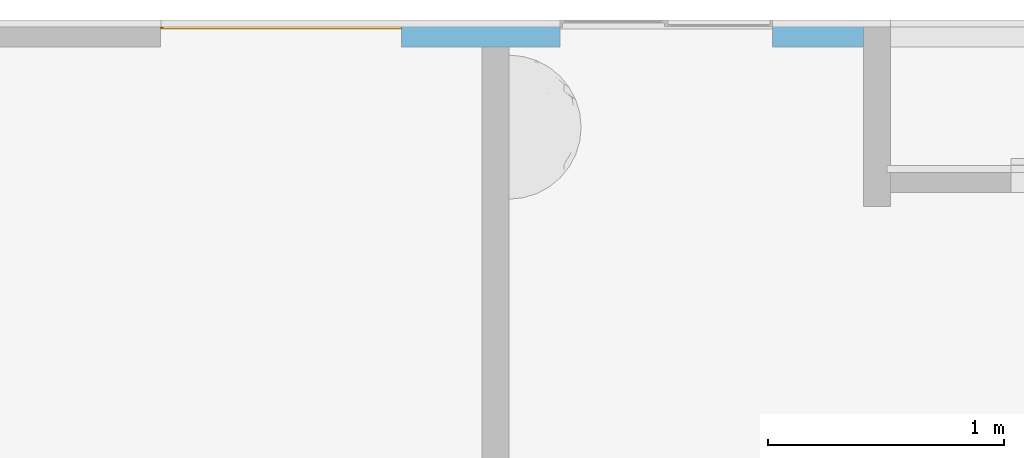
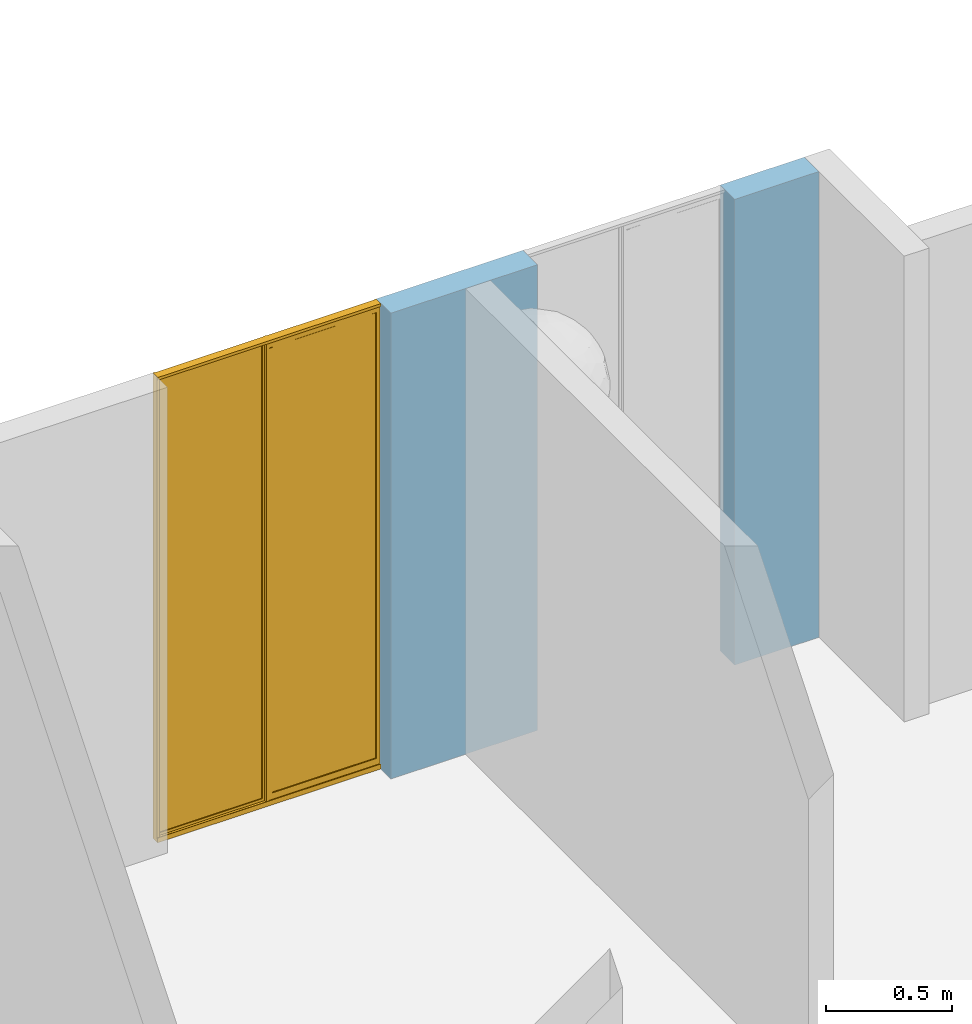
# One storey, part 19 of 51: 1 window, 2 openings, plus 1 element that does not belong to this part.
"""IFC4 building model written with IfcOpenShell, lengths in metres."""

import ifcopenshell
import ifcopenshell.guid

model = None  # the IFC model being written
_history = None  # IfcOwnerHistory: only IFC2X3 demands one
_inside = {}  # id of a spatial element -> (the spatial element, [elements in it])
_under = {}  # id of a project, library or spatial element -> (it, [spatial elements below it])
_declared = {}  # id of a project -> (the project, [libraries it declares])
_typed = {}  # id of a type object -> (the type object, [elements of that type])
_made_of = {}  # id of a material, layer set ... -> (it, [elements and type objects made of it])


def new_model(schema):
    """Start an empty IFC model of exactly this schema.

    Asked for "IFC4X3", IfcOpenShell would pick the latest addendum, in which some entities
    have other attributes; the version numbers below select the first issue.
    IFC2X3 requires an IfcOwnerHistory on every rooted entity: one is made here for all.
    """
    global model, _history
    if schema == "IFC4X3":
        model = ifcopenshell.file(schema_version=(4, 3, 0, 0))
    else:
        model = ifcopenshell.file(schema=schema)
    _inside.clear()
    _under.clear()
    _declared.clear()
    _typed.clear()
    _made_of.clear()
    _history = None
    if model.schema == "IFC2X3":
        org = make("IfcOrganization", Name="unknown")
        user = make(
            "IfcPersonAndOrganization",
            ThePerson=make("IfcPerson", FamilyName="unknown"),
            TheOrganization=org,
        )
        app = make(
            "IfcApplication",
            ApplicationDeveloper=org,
            Version="unknown",
            ApplicationFullName="unknown",
            ApplicationIdentifier="unknown",
        )
        _history = make(
            "IfcOwnerHistory",
            OwningUser=user,
            OwningApplication=app,
            ChangeAction="ADDED",
            CreationDate=0,
        )
    return model


def make(cls, **values):
    """One entity of the class cls with the attributes given. An attribute that is None is left unset."""
    return model.create_entity(
        cls, **{name: value for name, value in values.items() if value is not None}
    )


def entity(cls, *values):
    """Any entity or typed value of the class cls, its attributes in the order of the schema. None: left unset."""
    e = model.create_entity(cls)
    for i, value in enumerate(values):
        if value is not None:
            e[i] = value
    return e


def rooted(cls, **values):
    """An entity with a GlobalId (a new one), such as an element, a storey or a relation."""
    return make(cls, GlobalId=ifcopenshell.guid.new(), OwnerHistory=_history, **values)


def si_unit(unit_type, name, prefix=None):
    """IfcSIUnit, for example si_unit("LENGTHUNIT", "METRE", prefix="MILLI")."""
    return make("IfcSIUnit", UnitType=unit_type, Prefix=prefix, Name=name)


def converted_unit(unit_type, name, factor, base, dimensions=None, offset=None):
    """IfcConversionBasedUnit, such as the inch: factor (a typed value) times the base unit."""
    return make(
        "IfcConversionBasedUnit"
        if offset is None
        else "IfcConversionBasedUnitWithOffset",
        ConversionOffset=offset,
        Dimensions=None
        if dimensions is None
        else entity("IfcDimensionalExponents", *dimensions),
        UnitType=unit_type,
        Name=name,
        ConversionFactor=make(
            "IfcMeasureWithUnit", ValueComponent=factor, UnitComponent=base
        ),
    )


def derived_unit(unit_type, elements):
    """IfcDerivedUnit: a product of units, each with its exponent."""
    return make(
        "IfcDerivedUnit",
        Elements=[
            make("IfcDerivedUnitElement", Unit=unit, Exponent=power)
            for unit, power in elements
        ],
        UnitType=unit_type,
    )


def assignment(units):
    """IfcUnitAssignment: the units of a project."""
    return None if units is None else make("IfcUnitAssignment", Units=units)


def point(xyz):
    """IfcCartesianPoint."""
    return None if xyz is None else make("IfcCartesianPoint", Coordinates=xyz)


def direction(xyz):
    """IfcDirection."""
    return None if xyz is None else make("IfcDirection", DirectionRatios=xyz)


def frame(location, z_axis=None, x_axis=None):
    """IfcAxis2Placement3D, a coordinate frame: its origin and axes. An axis left out is left unset."""
    return make(
        "IfcAxis2Placement3D",
        Location=point(location),
        Axis=direction(z_axis),
        RefDirection=direction(x_axis),
    )


def origin():
    """The frame at (0, 0, 0) with its axes left unset."""
    return frame((0.0, 0.0, 0.0))


def place(relative_to, where):
    """IfcLocalPlacement: puts the frame where relative to a parent placement (None: the world)."""
    return make(
        "IfcLocalPlacement", PlacementRelTo=relative_to, RelativePlacement=where
    )


def context(
    kind, dimensions, precision=None, world=None, true_north=None, identifier=None
):
    """IfcGeometricRepresentationContext, for example the 3D "Model" context."""
    return make(
        "IfcGeometricRepresentationContext",
        ContextIdentifier=identifier,
        ContextType=kind,
        CoordinateSpaceDimension=dimensions,
        Precision=precision,
        WorldCoordinateSystem=world,
        TrueNorth=true_north,
    )


def subcontext(parent, identifier, kind, view, scale=None):
    """IfcGeometricRepresentationSubContext, for example "Body" below "Model"."""
    return make(
        "IfcGeometricRepresentationSubContext",
        ContextIdentifier=identifier,
        ContextType=kind,
        ParentContext=parent,
        TargetScale=scale,
        TargetView=view,
    )


def project(units=None, contexts=None):
    """IfcProject with its units and contexts."""
    return rooted(
        "IfcProject",
        Name="project",
        RepresentationContexts=contexts,
        UnitsInContext=assignment(units),
    )


def spatial(cls, under=None, at=None, **own):
    """A site, building, storey or space (cls), placed at a placement, below another one or the project."""
    s = rooted(cls, ObjectPlacement=at, **own)
    if under is not None:
        _under.setdefault(under.id(), (under, []))[1].append(s)
    return s


def point_list(points):
    """IfcCartesianPointList2D or 3D."""
    cls = (
        "IfcCartesianPointList2D" if len(points[0]) == 2 else "IfcCartesianPointList3D"
    )
    return make(cls, CoordList=points)


def indexed_curve(points, segments=None, self_intersect=None):
    """IfcIndexedPolyCurve: lines and arcs through numbered points (the first is 1)."""
    return make(
        "IfcIndexedPolyCurve",
        Points=point_list(points),
        Segments=segments,
        SelfIntersect=self_intersect,
    )


def outline(outer, holes=None, kind="AREA"):
    """IfcArbitraryClosedProfileDef: a profile drawn as a closed curve; with holes, ...WithVoids."""
    if holes is None:
        return make("IfcArbitraryClosedProfileDef", ProfileType=kind, OuterCurve=outer)
    return make(
        "IfcArbitraryProfileDefWithVoids",
        ProfileType=kind,
        OuterCurve=outer,
        InnerCurves=holes,
    )


def extrude(swept, where, along, depth):
    """IfcExtrudedAreaSolid: the profile swept, set in the frame where, extruded along a direction by depth."""
    return make(
        "IfcExtrudedAreaSolid",
        SweptArea=swept,
        Position=where,
        ExtrudedDirection=direction(along),
        Depth=depth,
    )


def polygons(points, faces, closed=None, point_numbers=None):
    """IfcPolygonalFaceSet: a face is its outer loop, then its inner loops; points numbered from 1."""
    made = []
    for loops in faces:
        if len(loops) == 1:
            made.append(make("IfcIndexedPolygonalFace", CoordIndex=loops[0]))
        else:
            made.append(
                make(
                    "IfcIndexedPolygonalFaceWithVoids",
                    CoordIndex=loops[0],
                    InnerCoordIndices=loops[1:],
                )
            )
    return make(
        "IfcPolygonalFaceSet",
        Coordinates=point_list(points),
        Closed=closed,
        Faces=made,
        PnIndex=point_numbers,
    )


def shape(context_of_items, identifier, shape_type, items):
    """IfcShapeRepresentation: the items that make up one representation, for example the "Body"."""
    return make(
        "IfcShapeRepresentation",
        ContextOfItems=context_of_items,
        RepresentationIdentifier=identifier,
        RepresentationType=shape_type,
        Items=items,
    )


def source(mapping_origin, context_of_items, identifier, shape_type, items):
    """IfcRepresentationMap: a shape defined once, which mapped items show again and again."""
    return make(
        "IfcRepresentationMap",
        MappingOrigin=mapping_origin,
        MappedRepresentation=shape(context_of_items, identifier, shape_type, items),
    )


def transform(
    local_origin,
    x_axis=None,
    y_axis=None,
    z_axis=None,
    scale=None,
    scale2=None,
    scale3=None,
    uniform=True,
):
    """IfcCartesianTransformationOperator3D, or its non-uniform kind. x_axis, y_axis, z_axis: its Axis1, 2, 3."""
    if uniform:
        return make(
            "IfcCartesianTransformationOperator3D",
            Axis1=direction(x_axis),
            Axis2=direction(y_axis),
            LocalOrigin=point(local_origin),
            Scale=scale,
            Axis3=direction(z_axis),
        )
    return make(
        "IfcCartesianTransformationOperator3DnonUniform",
        Axis1=direction(x_axis),
        Axis2=direction(y_axis),
        LocalOrigin=point(local_origin),
        Scale=scale,
        Axis3=direction(z_axis),
        Scale2=scale2,
        Scale3=scale3,
    )


def mapped(mapping_source, mapping_target):
    """IfcMappedItem: shows the shape of a source again, moved by a transform."""
    return make(
        "IfcMappedItem", MappingSource=mapping_source, MappingTarget=mapping_target
    )


def material(Name=None, Category=None):
    """IfcMaterial."""
    return make("IfcMaterial", Name=Name, Category=Category)


def constituent(of_material, Name=None, Category=None, fraction=None):
    """IfcMaterialConstituent: one of the materials an element consists of."""
    return make(
        "IfcMaterialConstituent",
        Name=Name,
        Material=of_material,
        Fraction=fraction,
        Category=Category,
    )


def constituent_set(constituents=None, Name=None):
    """IfcMaterialConstituentSet."""
    return make(
        "IfcMaterialConstituentSet", Name=Name, MaterialConstituents=constituents
    )


def made_of(thing, what):
    """Note that an element or type object is made of a material, layer set ...; save() writes the relation."""
    if what is not None:
        _made_of.setdefault(what.id(), (what, []))[1].append(thing)
    return thing


def type_object(cls, material=None, **own):
    """A type object (cls), such as IfcWallType, which elements share."""
    return made_of(rooted(cls, **own), material)


def type_shapes(of_type, sources):
    """Give a type object the sources (RepresentationMaps) that its elements show as mapped items."""
    of_type.RepresentationMaps = sources


def element(
    cls,
    number,
    at=None,
    inside=None,
    cuts=None,
    type_object=None,
    material=None,
    context=None,
    identifier="Body",
    shape_type=None,
    held_by="IfcProductDefinitionShape",
    body=None,
    shapes=None,
    **own,
):
    """One element of the class cls, such as IfcWall. Its Tag is "e" and its number.

    at: its placement. inside: the storey or other place that contains it. cuts: it is an
    opening in that element (IfcRelVoidsElement). A single representation is given by context,
    identifier, shape_type and body (its items); several are given by shapes. held_by: the class
    of the entity that holds the representations. save() writes the other relations.
    """
    e = rooted(cls, Tag="e%d" % number, ObjectPlacement=at, **own)
    if body is not None:
        shapes = [shape(context, identifier, shape_type, body)]
    if shapes is not None:
        e.Representation = make(held_by, Representations=shapes)
    if inside is not None:
        _inside.setdefault(inside.id(), (inside, []))[1].append(e)
    if cuts is not None:
        rooted(
            "IfcRelVoidsElement", RelatingBuildingElement=cuts, RelatedOpeningElement=e
        )
    if type_object is not None:
        _typed.setdefault(type_object.id(), (type_object, []))[1].append(e)
    return made_of(e, material)


def fill(opening, filler):
    """IfcRelFillsElement: the door or window that sits in an opening."""
    return rooted(
        "IfcRelFillsElement",
        RelatingOpeningElement=opening,
        RelatedBuildingElement=filler,
    )


def aggregate(whole, parts):
    """IfcRelAggregates: a whole, such as a stair, and the parts it consists of."""
    return rooted("IfcRelAggregates", RelatingObject=whole, RelatedObjects=parts)


def save(model, path):
    """Write the relations noted so far, then the file.

    IfcRelAggregates (storeys below a building ...), IfcRelContainedInSpatialStructure (elements
    in a storey), IfcRelDefinesByType, IfcRelAssociatesMaterial and IfcRelDeclares: one each for
    every whole, place, type object, material and project.
    """
    for whole, parts in _under.values():
        aggregate(whole, parts)
    for where, things in _inside.values():
        rooted(
            "IfcRelContainedInSpatialStructure",
            RelatedElements=things,
            RelatingStructure=where,
        )
    for kind, things in _typed.values():
        rooted("IfcRelDefinesByType", RelatedObjects=things, RelatingType=kind)
    for what, things in _made_of.values():
        rooted("IfcRelAssociatesMaterial", RelatedObjects=things, RelatingMaterial=what)
    for by, libraries in _declared.values():
        rooted("IfcRelDeclares", RelatingContext=by, RelatedDefinitions=libraries)
    model.write(path)


model = new_model("IFC4")

# Units and contexts
model_context = context("Model", 3, precision=1e-05, world=origin(), true_north=direction((6.123031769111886e-17, 1.0)))
body_context = subcontext(model_context, "Body", "Model", "MODEL_VIEW")
ifc_project = project(units=[si_unit("LENGTHUNIT", "METRE"), si_unit("AREAUNIT", "SQUARE_METRE"), si_unit("VOLUMEUNIT", "CUBIC_METRE"), converted_unit("PLANEANGLEUNIT", "DEGREE", entity("IfcRatioMeasure", 0.017453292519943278), si_unit("PLANEANGLEUNIT", "RADIAN"), dimensions=[0, 0, 0, 0, 0, 0, 0]), si_unit("MASSUNIT", "GRAM", prefix="KILO"), derived_unit("MASSDENSITYUNIT", [(si_unit("MASSUNIT", "GRAM", prefix="KILO"), 1), (si_unit("LENGTHUNIT", "METRE"), -3)]), derived_unit("IONCONCENTRATIONUNIT", [(si_unit("MASSUNIT", "GRAM", prefix="KILO"), 1), (si_unit("LENGTHUNIT", "METRE"), -3)]), derived_unit("MOMENTOFINERTIAUNIT", [(si_unit("LENGTHUNIT", "METRE"), 4)]), si_unit("TIMEUNIT", "SECOND"), si_unit("FREQUENCYUNIT", "HERTZ"), si_unit("THERMODYNAMICTEMPERATUREUNIT", "DEGREE_CELSIUS"), derived_unit("THERMALTRANSMITTANCEUNIT", [(si_unit("MASSUNIT", "GRAM", prefix="KILO"), 1), (si_unit("THERMODYNAMICTEMPERATUREUNIT", "KELVIN"), -1), (si_unit("TIMEUNIT", "SECOND"), -3)]), derived_unit("THERMALCONDUCTANCEUNIT", [(si_unit("MASSUNIT", "GRAM", prefix="KILO"), 1), (si_unit("THERMODYNAMICTEMPERATUREUNIT", "KELVIN"), -1), (si_unit("TIMEUNIT", "SECOND"), -3), (si_unit("LENGTHUNIT", "METRE"), 1)]), derived_unit("VOLUMETRICFLOWRATEUNIT", [(si_unit("LENGTHUNIT", "METRE"), 3), (si_unit("TIMEUNIT", "SECOND"), -1)]), derived_unit("MASSFLOWRATEUNIT", [(si_unit("MASSUNIT", "GRAM", prefix="KILO"), 1), (si_unit("TIMEUNIT", "SECOND"), -1)]), derived_unit("ROTATIONALFREQUENCYUNIT", [(si_unit("TIMEUNIT", "SECOND"), -1)]), si_unit("ELECTRICCURRENTUNIT", "AMPERE"), si_unit("ELECTRICVOLTAGEUNIT", "VOLT"), si_unit("POWERUNIT", "WATT"), si_unit("FORCEUNIT", "NEWTON", prefix="KILO"), si_unit("ILLUMINANCEUNIT", "LUX"), si_unit("LUMINOUSFLUXUNIT", "LUMEN"), si_unit("LUMINOUSINTENSITYUNIT", "CANDELA"), derived_unit("USERDEFINED", [(si_unit("MASSUNIT", "GRAM", prefix="KILO"), -1), (si_unit("LENGTHUNIT", "METRE"), -2), (si_unit("TIMEUNIT", "SECOND"), 3), (si_unit("LUMINOUSFLUXUNIT", "LUMEN"), 1)]), derived_unit("USERDEFINED", [(si_unit("MASSUNIT", "GRAM", prefix="KILO"), 1), (si_unit("TIMEUNIT", "SECOND"), -3), (si_unit("LENGTHUNIT", "METRE"), 3), (si_unit("ELECTRICCURRENTUNIT", "AMPERE"), -2)]), derived_unit("SOUNDPOWERUNIT", [(si_unit("MASSUNIT", "GRAM", prefix="KILO"), 1), (si_unit("TIMEUNIT", "SECOND"), -3), (si_unit("LENGTHUNIT", "METRE"), 2)]), derived_unit("SOUNDPRESSUREUNIT", [(si_unit("MASSUNIT", "GRAM", prefix="KILO"), 1), (si_unit("LENGTHUNIT", "METRE"), -1), (si_unit("TIMEUNIT", "SECOND"), -2)]), derived_unit("LINEARVELOCITYUNIT", [(si_unit("LENGTHUNIT", "METRE"), 1), (si_unit("TIMEUNIT", "SECOND"), -1)]), si_unit("PRESSUREUNIT", "PASCAL"), derived_unit("USERDEFINED", [(si_unit("MASSUNIT", "GRAM", prefix="KILO"), 1), (si_unit("LENGTHUNIT", "METRE"), -2), (si_unit("TIMEUNIT", "SECOND"), -2)]), derived_unit("LINEARFORCEUNIT", [(si_unit("MASSUNIT", "GRAM", prefix="KILO"), 1), (si_unit("TIMEUNIT", "SECOND"), -2)]), derived_unit("PLANARFORCEUNIT", [(si_unit("MASSUNIT", "GRAM", prefix="KILO"), 1), (si_unit("LENGTHUNIT", "METRE"), -1), (si_unit("TIMEUNIT", "SECOND"), -2)]), derived_unit("SPECIFICHEATCAPACITYUNIT", [(si_unit("THERMODYNAMICTEMPERATUREUNIT", "KELVIN"), -1), (si_unit("LENGTHUNIT", "METRE"), 2), (si_unit("TIMEUNIT", "SECOND"), -2)]), derived_unit("HEATINGVALUEUNIT", [(si_unit("LENGTHUNIT", "METRE"), 2), (si_unit("TIMEUNIT", "SECOND"), -2)]), derived_unit("VAPORPERMEABILITYUNIT", [(si_unit("LENGTHUNIT", "METRE"), -1), (si_unit("TIMEUNIT", "SECOND"), 1)]), derived_unit("DYNAMICVISCOSITYUNIT", [(si_unit("MASSUNIT", "GRAM", prefix="KILO"), 1), (si_unit("TIMEUNIT", "SECOND"), -1), (si_unit("LENGTHUNIT", "METRE"), -1)]), derived_unit("THERMALEXPANSIONCOEFFICIENTUNIT", [(si_unit("THERMODYNAMICTEMPERATUREUNIT", "KELVIN"), -1)]), derived_unit("MODULUSOFELASTICITYUNIT", [(si_unit("MASSUNIT", "GRAM", prefix="KILO"), 1), (si_unit("LENGTHUNIT", "METRE"), -1), (si_unit("TIMEUNIT", "SECOND"), -2)]), derived_unit("ISOTHERMALMOISTURECAPACITYUNIT", [(si_unit("LENGTHUNIT", "METRE"), 3), (si_unit("MASSUNIT", "GRAM", prefix="KILO"), -1)]), derived_unit("MOISTUREDIFFUSIVITYUNIT", [(si_unit("TIMEUNIT", "SECOND"), -1), (si_unit("LENGTHUNIT", "METRE"), 2)])], contexts=[model_context])

# Site, building, storey
site_placement = place(None, origin())
site = spatial("IfcSite", under=ifc_project, at=site_placement, Name="Default", CompositionType="ELEMENT")
building_placement = place(site_placement, origin())
building = spatial("IfcBuilding", under=site, at=building_placement, CompositionType="ELEMENT")
storey_placement = place(building_placement, frame((0.0, 0.0, 2.350000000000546)))
storey = spatial("IfcBuildingStorey", under=building, at=storey_placement, Name="Nivel 2", CompositionType="ELEMENT", Elevation=2.350000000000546)

# Wall, openings, window
ifc_material_1 = material(Name="Ladrillo claro (Aire)", Category="Materials")
wall_type = type_object("IfcWallType", Name="Basic Wall:B2010 - 0.115m - Muro exterior en mampostería - Ladrillo", PredefinedType="STANDARD")
wall_placement = place(storey_placement, frame((6.067499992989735, -0.037500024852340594, 0.0), z_axis=(0.0, 0.0, 1.0), x_axis=(-1.0, 0.0, 0.0)))
wall = element("IfcWall", 1, at=wall_placement, inside=storey, type_object=wall_type, material=ifc_material_1, Name="Basic Wall:B2010 - 0.115m - Muro exterior en mampostería - Ladrillo", ObjectType="Basic Wall:B2010 - 0.115m - Muro exterior en mampostería - Ladrillo", PredefinedType="NOTDEFINED", context=body_context, shape_type="Tessellation", body=[
    polygons([(0.3850000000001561, -0.05750000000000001, 2.250000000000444), (1.7657632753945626e-17, -0.05750000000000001, 2.250000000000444), (1.1005247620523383e-15, -0.05750000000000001, -5.414335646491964e-16), (0.3850000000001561, -0.05750000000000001, -5.414335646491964e-16), (2.0818603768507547e-15, 0.05749999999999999, -5.414335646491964e-16), (0.38500000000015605, 0.05749999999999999, -5.414335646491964e-16), (0.38500000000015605, 0.05749999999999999, 2.250000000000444), (9.989932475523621e-16, 0.05749999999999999, 2.250000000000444)], [[[1, 2, 3, 4]], [[3, 5, 6, 4]], [[2, 1, 7, 8]], [[3, 2, 8, 5]], [[1, 4, 6, 7]], [[5, 8, 7, 6]]], closed=True),
    polygons([(1.2850000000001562, 0.05749999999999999, -5.414335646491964e-16), (1.2850000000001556, 0.05749999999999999, 2.250000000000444), (1.4999999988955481, 0.05749999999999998, 2.250000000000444), (1.6149999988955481, 0.05749999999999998, 2.250000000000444), (1.9557999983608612, 0.05749999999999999, 2.250000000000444), (1.9557999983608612, 0.05749999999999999, -5.414335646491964e-16), (1.6149999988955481, 0.05749999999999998, -2.707167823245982e-16), (1.4999999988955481, 0.05749999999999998, -2.707167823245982e-16), (1.9557999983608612, -0.05750000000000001, 2.250000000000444), (1.9557999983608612, -0.05750000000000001, -5.414335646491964e-16), (1.2850000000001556, -0.05750000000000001, -5.414335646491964e-16), (1.2850000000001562, -0.05750000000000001, 2.250000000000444)], [[[1, 2, 3, 4, 5, 6, 7, 8]], [[9, 10, 6, 5]], [[11, 12, 2, 1]], [[2, 12, 9, 5, 4, 3]], [[11, 1, 8, 7, 6, 10]], [[12, 11, 10, 9]]], closed=True),
])
opening_1_placement = place(wall_placement, frame((0.38500000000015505, -0.05750000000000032, 0.0)))
element("IfcOpeningElement", 2, at=opening_1_placement, cuts=wall, Name="B2020 - Ventana corrediza 2C - Aluminio + Vidrio:B2020 - 0.90m x 2.25m - Ventana corrediza 2C - Aluminio + Vidrio:1", PredefinedType="OPENING", context=body_context, shape_type="SweptSolid", body=[
    extrude(outline(indexed_curve([(0.0, 0.9), (0.0, 0.0), (2.249999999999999, 0.0), (2.249999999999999, 0.9), (0.0, 0.9)], self_intersect=False)), frame((0.0, 0.0, 0.0), z_axis=(0.0, 1.0, 0.0), x_axis=(0.0, 0.0, 1.0)), (0.0, 0.0, 1.0), 0.115),
])
opening_2_placement = place(wall_placement, frame((1.9557999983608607, -0.057500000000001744, 0.0)))
opening_2 = element("IfcOpeningElement", 3, at=opening_2_placement, cuts=wall, Name="B2020 - Ventana corrediza 2C - Aluminio + Vidrio:B2020 - 1.02m x 2.25m - Ventana corrediza 2C - Aluminio + Vidrio:1", PredefinedType="OPENING", context=body_context, shape_type="SweptSolid", body=[
    extrude(outline(indexed_curve([(0.0, 1.0199999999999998), (0.0, 0.0), (2.249999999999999, 0.0), (2.249999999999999, 1.0199999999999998), (0.0, 1.0199999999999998)], self_intersect=False)), frame((0.0, 0.0, 0.0), z_axis=(0.0, 1.0, 0.0), x_axis=(0.0, 0.0, 1.0)), (0.0, 0.0, 1.0), 0.115),
])
ifc_material_2 = material(Name="Vidrio", Category="Materials")
ifc_constituent_1 = constituent(ifc_material_2, Name="Vidrio", Category="Materials")
ifc_material_3 = material(Name="<Unnamed>")
ifc_constituent_2 = constituent(ifc_material_3, Name="<Unnamed>")
ifc_constituent_set_1 = constituent_set(constituents=[ifc_constituent_1, ifc_constituent_2])
ifc_constituent_3 = constituent(ifc_material_2, Name="Vidrio", Category="Materials")
ifc_constituent_4 = constituent(ifc_material_3, Name="<Unnamed>")
ifc_constituent_set_2 = constituent_set(constituents=[ifc_constituent_3, ifc_constituent_4])
window_type = type_object("IfcWindowType", Name="B2020 - Ventana corrediza 2C - Aluminio + Vidrio:B2020 - 1.02m x 2.25m - Ventana corrediza 2C - Aluminio + Vidrio", PartitioningType="NOTDEFINED", PredefinedType="WINDOW", material=ifc_constituent_set_2)
shared_shape = source(origin(), body_context, "Body", "Tessellation", [
    polygons([(0.48981286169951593, 0.11062877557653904, 0.028641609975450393), (0.48981286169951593, 0.10552744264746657, 0.028641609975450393), (0.01996764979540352, 0.10552744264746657, 0.028641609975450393), (0.019967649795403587, 0.11062877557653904, 0.028641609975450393), (0.48981286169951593, 0.11062877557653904, 2.2347073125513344), (0.48981286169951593, 0.10552744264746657, 2.2347073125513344), (0.01996764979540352, 0.10552744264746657, 2.2347073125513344), (0.019967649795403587, 0.11062877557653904, 2.2347073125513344)], [[[1, 2, 3, 4]], [[5, 6, 2, 1]], [[6, 7, 3, 2]], [[7, 8, 4, 3]], [[8, 5, 1, 4]], [[5, 8, 7, 6]]], closed=True),
    polygons([(1.0011536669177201, 0.0938089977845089, 0.054189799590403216), (1.0011536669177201, 0.08951300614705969, 0.054189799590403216), (0.5317289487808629, 0.08951300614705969, 0.054189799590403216), (0.5317289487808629, 0.0938089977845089, 0.054189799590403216), (1.0011536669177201, 0.0938089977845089, 2.2043993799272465), (1.0011536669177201, 0.08951300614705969, 2.2043993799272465), (0.5317289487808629, 0.08951300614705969, 2.2043993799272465), (0.5317289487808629, 0.0938089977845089, 2.2043993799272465)], [[[1, 2, 3, 4]], [[5, 6, 2, 1]], [[6, 7, 3, 2]], [[7, 8, 4, 3]], [[8, 5, 1, 4]], [[5, 8, 7, 6]]], closed=True),
    polygons([(1.0200000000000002, 0.07999999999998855, 0.020380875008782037), (1.0200000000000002, 0.07999999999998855, -2.5718094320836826e-15), (1.0200000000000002, 0.1149999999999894, -2.5718094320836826e-15), (1.0200000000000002, 0.1150000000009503, 2.2499999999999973), (1.0200000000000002, 0.07720993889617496, 2.2499999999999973), (1.0200000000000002, 0.07720993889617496, 2.2365872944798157), (1.0200000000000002, 0.07857307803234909, 2.2365872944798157), (1.0200000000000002, 0.07857307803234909, 2.24863686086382), (1.0200000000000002, 0.08683610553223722, 2.24863686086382), (1.0200000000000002, 0.0868361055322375, 0.017447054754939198), (1.0200000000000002, 0.08124999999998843, 0.017447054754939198), (1.0200000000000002, 0.08124999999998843, 0.02163087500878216), (1.0200000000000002, 0.07857761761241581, 0.02163087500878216), (1.0200000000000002, 0.07857761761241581, 0.025674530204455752), (1.0200000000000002, 0.07732761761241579, 0.025674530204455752), (1.0200000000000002, 0.07732761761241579, 0.020380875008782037), (2.0303758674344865e-16, 0.0799999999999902, 0.020380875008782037), (2.0303758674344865e-16, 0.0799999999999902, -2.5718094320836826e-15), (2.0303758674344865e-16, 0.11499999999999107, -2.5718094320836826e-15), (0.5033545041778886, 0.1149999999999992, 2.2499999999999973), (0.5166454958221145, 0.1149999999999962, 2.2499999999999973), (0.5166454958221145, 0.11499999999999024, 0.006176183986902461), (1.010102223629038, 0.11499999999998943, 0.006176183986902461), (1.010102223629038, 0.1150000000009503, 2.2499999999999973), (2.707167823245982e-16, 0.1150000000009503, 2.2499999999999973), (0.009999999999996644, 0.11500000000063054, 2.2499999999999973), (0.009999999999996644, 0.11499999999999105, 0.006176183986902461), (0.5033545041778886, 0.11499999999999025, 0.006176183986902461), (1.003701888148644, 0.08683610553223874, 2.2069861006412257), (1.0037018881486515, 0.0868361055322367, 0.0519155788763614), (0.5291807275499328, 0.08683610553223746, 0.0519155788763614), (0.5291807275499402, 0.08683610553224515, 2.2043993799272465), (0.5166454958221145, 0.08683610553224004, 2.2043993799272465), (0.5166454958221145, 0.08683610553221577, 2.2069861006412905), (1.0037018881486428, 0.08683610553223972, 2.237270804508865), (0.5166454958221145, 0.0868361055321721, 2.237270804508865), (0.5166454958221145, 0.08683610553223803, 2.24863686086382), (0.5019528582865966, 0.08683610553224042, 2.24863686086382), (0.5019528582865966, 0.08683610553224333, 0.01744705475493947), (0.5166454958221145, 0.08683610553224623, 0.017447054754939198), (0.5166454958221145, 0.08683610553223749, 0.021630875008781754), (1.0162371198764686, 0.08683610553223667, 0.02163087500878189), (1.0162371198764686, 0.08683610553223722, 0.01744705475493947), (1.0037018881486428, 0.08683610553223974, 2.24863686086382), (2.0303758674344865e-16, 0.0812499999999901, 0.017447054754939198), (1.0162371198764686, 0.09036136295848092, 0.017447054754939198), (0.5166454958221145, 0.09036136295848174, 0.017447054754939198), (0.5019528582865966, 0.09036136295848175, 0.017447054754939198), (0.009999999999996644, 0.09036136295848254, 0.017447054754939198), (0.009999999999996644, 0.08300000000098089, 0.017447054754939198), (2.0303758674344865e-16, 0.08300000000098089, 0.017447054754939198), (2.0303758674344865e-16, 0.0812499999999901, 0.02163087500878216), (2.0303758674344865e-16, 0.07857761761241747, 0.02163087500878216), (2.0303758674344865e-16, 0.07857761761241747, 0.025674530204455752), (2.0303758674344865e-16, 0.07732761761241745, 0.025674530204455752), (2.0303758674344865e-16, 0.07732761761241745, 0.020380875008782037), (1.0011570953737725, 0.09380711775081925, 0.054191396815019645), (1.0037018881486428, 0.09648589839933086, 0.051915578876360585), (0.529180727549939, 0.09648589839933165, 0.051915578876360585), (0.5317227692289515, 0.09380452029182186, 0.054191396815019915), (1.0037018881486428, 0.09648589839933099, 2.237270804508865), (1.0011536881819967, 0.09378706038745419, 2.237270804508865), (1.0011536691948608, 0.09378696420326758, 2.24863686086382), (1.0037018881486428, 0.09648589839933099, 2.24863686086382), (1.0037018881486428, 0.09648589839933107, 2.206986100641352), (0.5166454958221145, 0.09648589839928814, 2.2069861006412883), (0.5166454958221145, 0.09648589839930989, 2.237270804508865), (1.010102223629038, 0.09648589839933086, 2.24863686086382), (1.010102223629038, 0.09648589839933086, 0.021630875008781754), (0.5166454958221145, 0.09648589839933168, 0.02163087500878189), (0.5166454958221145, 0.09648589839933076, 2.2043993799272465), (0.5291807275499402, 0.09648589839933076, 2.2043993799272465), (0.5317289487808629, 0.09379979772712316, 2.2043993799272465), (1.0011598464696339, 0.08951748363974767, 0.05419139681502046), (0.5317255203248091, 0.08951488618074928, 0.05419139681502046), (1.0011537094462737, 0.08953496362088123, 2.237270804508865), (1.0011536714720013, 0.08953504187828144, 2.24863686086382), (0.5317289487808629, 0.08952211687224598, 2.2043992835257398), (0.5019528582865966, 0.10334183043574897, 2.24863686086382), (0.5019528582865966, 0.10334183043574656, 0.014402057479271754), (0.5019528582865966, 0.09363692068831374, 0.014402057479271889), (0.5019528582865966, 0.0936369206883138, 0.010600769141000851), (0.5019528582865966, 0.09036136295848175, 0.011279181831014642), (0.5166454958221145, 0.11281438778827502, 2.2499999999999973), (0.5166454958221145, 0.11281438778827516, 2.2369062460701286), (0.5166454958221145, 0.11061545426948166, 2.2347073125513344), (0.5166454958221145, 0.10554076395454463, 2.2347073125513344), (0.5166454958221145, 0.10334183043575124, 2.2369062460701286), (0.5166454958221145, 0.10334183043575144, 2.24863686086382), (0.5166454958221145, 0.09380890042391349, 2.204399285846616), (0.5166454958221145, 0.09036136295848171, 0.011279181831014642), (1.0162371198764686, 0.09648589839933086, 0.021630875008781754), (1.0162371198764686, 0.09648589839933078, 0.010010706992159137), (1.0162371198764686, 0.0903613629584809, 0.011279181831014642), (1.010102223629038, 0.09648589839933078, 0.010010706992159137), (1.010102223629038, 0.10334183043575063, 2.24863686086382), (1.010102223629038, 0.10334183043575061, 2.2369062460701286), (1.010102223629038, 0.1055407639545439, 2.2347073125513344), (1.010102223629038, 0.11061545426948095, 2.2347073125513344), (1.010102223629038, 0.11281438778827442, 2.2369062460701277), (1.010102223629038, 0.11281438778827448, 2.2499999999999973), (2.0303758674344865e-16, 0.08300000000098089, 2.24863686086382), (2.0303758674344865e-16, 0.07857307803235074, 2.24863686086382), (2.0303758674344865e-16, 0.07857307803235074, 2.2365872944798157), (2.0303758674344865e-16, 0.07720993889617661, 2.2365872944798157), (2.0303758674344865e-16, 0.07720993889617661, 2.2499999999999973), (0.009999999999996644, 0.08300000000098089, 2.24863686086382), (0.009999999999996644, 0.09036136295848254, 0.011279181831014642), (0.009999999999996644, 0.09363692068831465, 0.010600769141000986), (0.009999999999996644, 0.09363692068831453, 0.014402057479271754), (0.009999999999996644, 0.10334183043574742, 0.014402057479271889), (0.009999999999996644, 0.10334183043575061, 2.24863686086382), (0.5033545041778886, 0.11281438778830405, 0.006628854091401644), (0.5033545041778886, 0.112814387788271, 2.2499999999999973), (0.009999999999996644, 0.11281438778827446, 2.2499999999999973), (0.009999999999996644, 0.11281438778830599, 0.0066288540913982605), (0.4923610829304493, 0.11281438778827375, 0.02682441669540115), (0.48981286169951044, 0.11062877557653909, 0.028641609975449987), (0.4898128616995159, 0.1106287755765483, 2.2347139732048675), (0.4923610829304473, 0.11281438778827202, 2.236906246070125), (0.019967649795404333, 0.11062877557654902, 0.028641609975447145), (0.017419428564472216, 0.11281438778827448, 0.02682441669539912), (0.017419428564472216, 0.1128143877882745, 2.236906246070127), (0.019967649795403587, 0.11062877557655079, 2.2347139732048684), (0.019967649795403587, 0.10552744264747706, 0.028641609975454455), (0.01741942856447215, 0.1033418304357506, 0.026824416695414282), (0.4923610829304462, 0.10334183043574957, 0.02682441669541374), (0.48981286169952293, 0.10552744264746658, 0.028641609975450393), (0.019968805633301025, 0.10553009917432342, 2.234711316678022), (0.01741942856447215, 0.10334183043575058, 2.23690624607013), (0.49236108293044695, 0.10334183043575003, 2.2369062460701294), (0.4898117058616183, 0.1055300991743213, 2.234711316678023), (1.0011537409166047, 0.09378737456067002, 2.2043889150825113), (1.0011555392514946, 0.0895303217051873, 2.2043931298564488), (0.5166454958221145, 0.08951315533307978, 2.2043993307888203)], [[[1, 2, 3, 4, 5, 6, 7, 8, 9, 10, 11, 12, 13, 14, 15, 16]], [[17, 18, 2, 1]], [[2, 18, 19, 3]], [[20, 21, 22, 23, 24, 4, 3, 19, 25, 26, 27, 28]], [[35, 36, 37, 38, 39, 40, 41, 42, 43, 10, 9, 44], [29, 30, 31, 32, 33, 34]], [[45, 11, 10, 43, 46, 47, 40, 39, 48, 49, 50, 51]], [[45, 52, 12, 11]], [[52, 53, 13, 12]], [[53, 54, 14, 13]], [[54, 55, 15, 14]], [[55, 56, 16, 15]], [[56, 17, 1, 16]], [[57, 58, 59, 60]], [[61, 62, 63, 64]], [[58, 65, 66, 67, 61, 64, 68, 69, 70, 71, 72, 59]], [[72, 73, 60, 59]], [[74, 57, 60, 75]], [[62, 76, 77, 63]], [[60, 73, 78, 75]], [[30, 74, 75, 31]], [[76, 35, 44, 77]], [[78, 32, 31, 75]], [[48, 39, 38, 79, 80, 81, 82, 83]], [[22, 21, 84, 85, 86, 87, 88, 89, 37, 36, 67, 66, 90, 71, 70, 41, 40, 47, 91]], [[41, 70, 69, 92, 42]], [[92, 93, 94, 46, 43, 42]], [[69, 95, 93, 92]], [[24, 23, 95, 69, 68, 96, 97, 98, 99, 100, 101]], [[17, 56, 55, 54, 53, 52, 45, 51, 102, 103, 104, 105, 106, 25, 19, 18]], [[51, 50, 107, 102]], [[48, 83, 108, 49]], [[50, 49, 108, 109, 110, 111, 112, 107]], [[83, 82, 109, 108]], [[113, 114, 20, 28]], [[26, 115, 116, 27]], [[84, 101, 100, 85]], [[82, 81, 110, 109]], [[117, 118, 119, 120]], [[121, 122, 123, 124]], [[122, 121, 118, 117]], [[125, 126, 127, 128]], [[88, 97, 96, 89]], [[126, 125, 129, 130]], [[128, 127, 131, 132]], [[81, 80, 111, 110]], [[125, 121, 124, 129]], [[121, 125, 128, 118]], [[118, 128, 132, 119]], [[5, 4, 24, 101, 84, 21, 20, 114, 115, 26, 25, 106]], [[65, 133, 73, 90, 66]], [[133, 134, 78, 73]], [[134, 29, 34, 135, 78]], [[76, 62, 61, 67, 36, 35]], [[33, 32, 78, 135]], [[104, 103, 8, 7]], [[105, 104, 7, 6]], [[106, 105, 6, 5]], [[123, 120, 119, 124]], [[132, 129, 124, 119]], [[131, 130, 129, 132]], [[8, 103, 102, 107, 112, 79, 38, 37, 89, 96, 68, 64, 63, 77, 44, 9]], [[87, 98, 97, 88]], [[86, 99, 98, 87]], [[85, 100, 99, 86]], [[73, 72, 71, 90]], [[111, 80, 79, 112], [127, 126, 130, 131]], [[115, 114, 113, 116], [117, 120, 123, 122]], [[113, 28, 27, 116]], [[22, 91, 94, 93, 95, 23]], [[91, 47, 46, 94]], [[135, 34, 33]], [[74, 30, 29, 134]], [[57, 74, 134, 133]], [[58, 57, 133, 65]]], closed=True),
])
type_shapes(window_type, [shared_shape])
window_placement = place(opening_2_placement, frame((1.020000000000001, 0.11499999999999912, 0.0), z_axis=(0.0, 0.0, 1.0), x_axis=(-1.0, 0.0, 0.0)))
window = element("IfcWindow", 4, at=window_placement, inside=storey, type_object=window_type, material=ifc_constituent_set_1, Name="B2020 - Ventana corrediza 2C - Aluminio + Vidrio:B2020 - 1.02m x 2.25m - Ventana corrediza 2C - Aluminio + Vidrio", ObjectType="B2020 - Ventana corrediza 2C - Aluminio + Vidrio:B2020 - 1.02m x 2.25m - Ventana corrediza 2C - Aluminio + Vidrio", OverallHeight=2.249999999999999, OverallWidth=1.0199999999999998, PartitioningType="NOTDEFINED", PredefinedType="WINDOW", context=body_context, shape_type="MappedRepresentation", body=[
    mapped(shared_shape, transform((0.0, 0.0, 0.0), scale=1.0)),
])
fill(opening_2, window)

save(model, "model.ifc")
